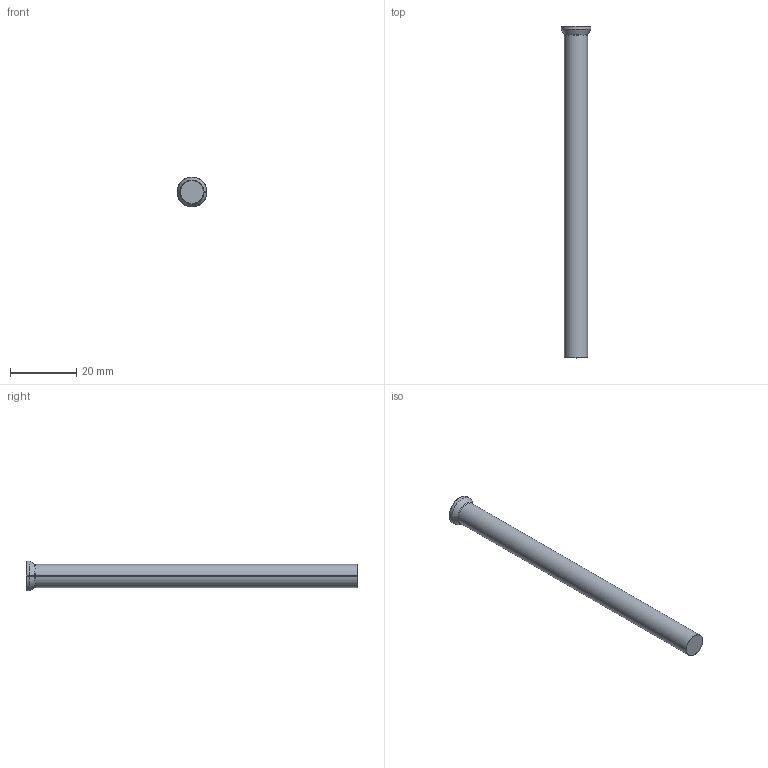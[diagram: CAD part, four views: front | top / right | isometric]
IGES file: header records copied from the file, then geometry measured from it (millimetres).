
Start section: SolidWorks IGES file using analytic representation for surfaces
Global section: file name: D:\Cleonir_arquivos\MT_15_07\Punções de Corte Tipo DA DIN 9861\PNDA07,0100H.igs; native system: SolidWorks 2013; preprocessor: SolidWorks 2013; author: Cleonir; date: 130731.210602; units: millimetre
Bounding box: 9 x 100.5 x 9 mm (x, y, z)
Surface area: 2331.8 mm2 (no closed solid volume)
Topology: 0 solids, 0 shells, 317 faces, 2774 edges, 2774 vertices
Faces by surface type: bspline 303, revolution 14
